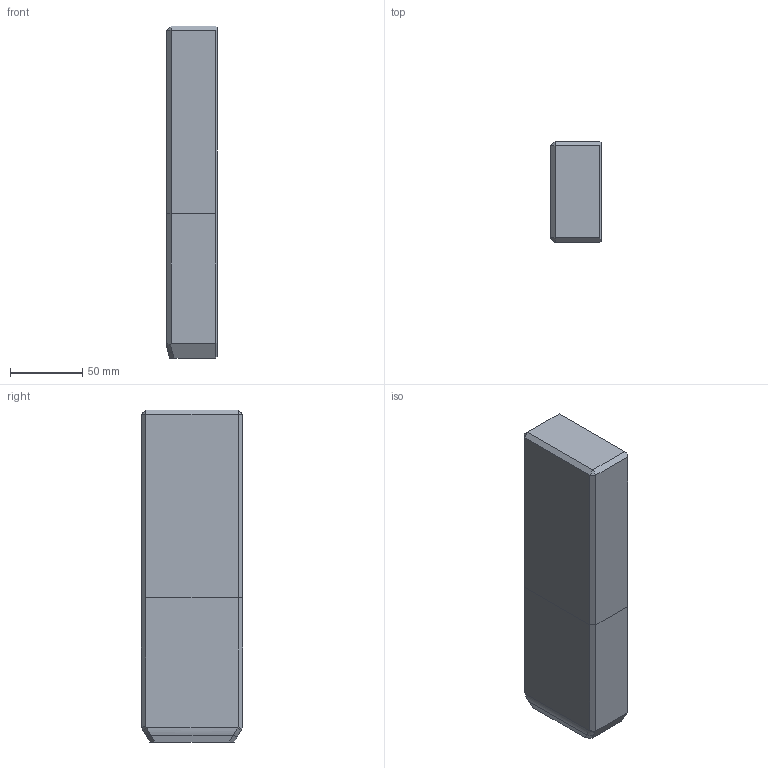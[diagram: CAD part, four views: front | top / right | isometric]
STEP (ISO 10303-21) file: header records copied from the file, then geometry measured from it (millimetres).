
FILE_DESCRIPTION((''),'2;1');
FILE_NAME('','2010-08-30T18:05:48+09:00',('misumi'),(''),'M/STEP i/f 1R2-14','CADmeister v5.1','');
FILE_SCHEMA(('AUTOMOTIVE_DESIGN'));
Length unit declared in the file: millimetre
Products named in the file (1): OGG70-230
Bounding box: 35 x 70 x 230 mm (x, y, z)
Volume: 558078.1 mm3; surface area: 51251.1 mm2
Topology: 1 solids, 1 shells, 33 faces, 76 edges, 45 vertices
Faces by surface type: plane 27, bspline 5, cylinder 1
Entity records: 1524 total; most frequent: CARTESIAN_POINT 746, ORIENTED_EDGE 152, DIRECTION 118, EDGE_CURVE 76, LINE 60, VECTOR 60, VERTEX_POINT 45, EDGE_LOOP 33
